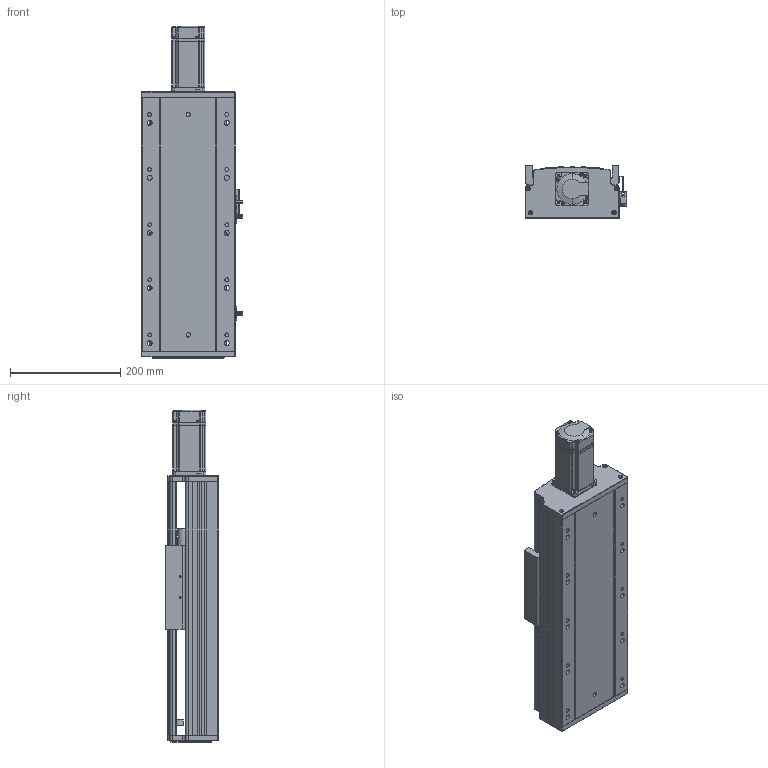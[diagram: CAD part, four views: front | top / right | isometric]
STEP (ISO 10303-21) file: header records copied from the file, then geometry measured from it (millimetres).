
FILE_DESCRIPTION (( 'STEP AP203' ), '1' );
FILE_NAME ('RY170-L2020-300-MK.SLDASM_150.step', '2021-02-20T03:50:19', ( '盈信电脑' ), ( '东莞市道滘镇水果街19号' ), 'SwSTEP 2.0', 'SolidWorks 2012', '' );
FILE_SCHEMA (( 'CONFIG_CONTROL_DESIGN' ));
Length unit declared in the file: millimetre
Products named in the file (12): 滅袉蝶18-10; RY170-L2020-300-MK.SLDASM_150; 滅袉蝶18-28; RY170外置感应片(200共用）; RY170ヶ醱裔啣; 15; 覜茼ん672; 侂狟400W侜督萇儂; RY170綴裔啣; RY170-300倰第裔啣-MK_150; RY170-300倰第菁釱-MK_150; RY170臏賑輸20佪裝蹟譫
Assembly tree (13 placements, depth 3):
  RY170-L2020-300-MK.SLDASM_150
    RY170-300倰第菁釱-MK_150
    RY170-300倰第裔啣-MK_150
    RY170臏賑輸20佪裝蹟譫
    侂狟400W侜督萇儂
      15
    RY170綴裔啣
    覜茼ん672  x3
    RY170外置感应片(200共用）
    RY170ヶ醱裔啣
    滅袉蝶18-28
    滅袉蝶18-10
Bounding box: 183.7 x 97 x 602.5 mm (x, y, z)
Volume: 3164126.8 mm3; surface area: 917739.6 mm2
Topology: 12 solids, 12 shells, 2034 faces, 5772 edges, 3756 vertices
Faces by surface type: plane 1166, cylinder 708, cone 131, bspline 29
Entity records: 63829 total; most frequent: CARTESIAN_POINT 13829, ORIENTED_EDGE 10420, DIRECTION 9897, EDGE_CURVE 5210, VECTOR 3445, LINE 3445, VERTEX_POINT 3436, AXIS2_PLACEMENT_3D 3226
